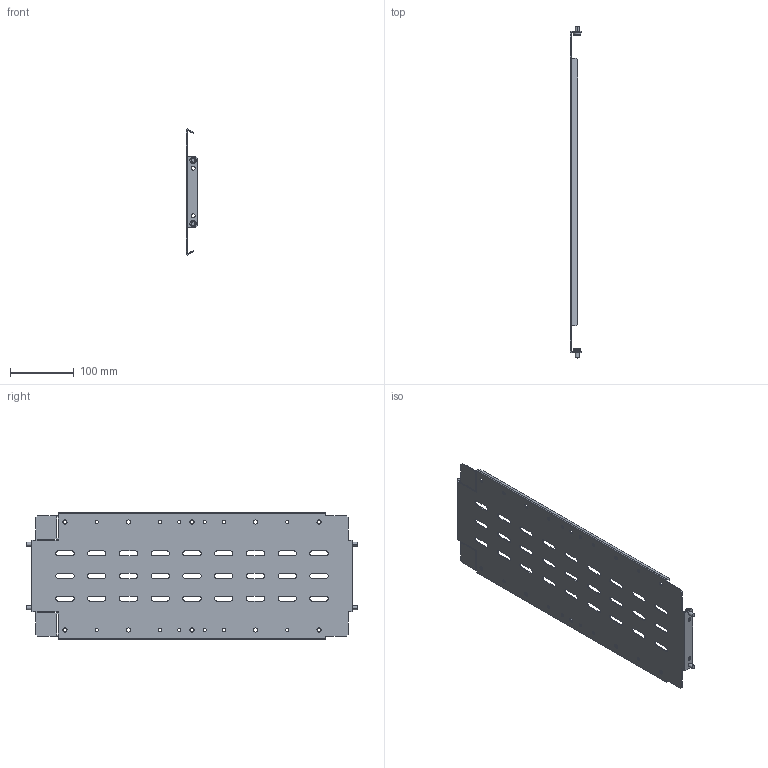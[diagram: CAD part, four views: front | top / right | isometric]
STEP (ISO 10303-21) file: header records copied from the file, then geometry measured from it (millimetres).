
FILE_DESCRIPTION (( 'STEP AP214' ), '1' );
FILE_NAME ('FO-00-SWV-020-060 Ïåðåãîðîäêà ñåêöèîíèðîâàíèÿ âåðòèêàëüíàÿ 200x600 ìì.STEP', '2025-08-11T08:36:55', ( '' ), ( '' ), 'SwSTEP 2.0', 'SolidWorks 2023', '' );
FILE_SCHEMA (( 'AUTOMOTIVE_DESIGN' ));
Length unit declared in the file: millimetre
Products named in the file (1): FO-00-SWV-020-060 Перегородка секционирования вертикальная 200x600 мм
Bounding box: 17.5 x 522.5 x 198.93 mm (x, y, z)
Volume: 158727.8 mm3; surface area: 216484.7 mm2
Topology: 1 solids, 1 shells, 320 faces, 882 edges, 580 vertices
Faces by surface type: plane 166, cylinder 130, torus 16, cone 8
Entity records: 10485 total; most frequent: DIRECTION 1824, CARTESIAN_POINT 1783, ORIENTED_EDGE 1764, EDGE_CURVE 882, AXIS2_PLACEMENT_3D 621, LINE 582, VECTOR 582, VERTEX_POINT 580
